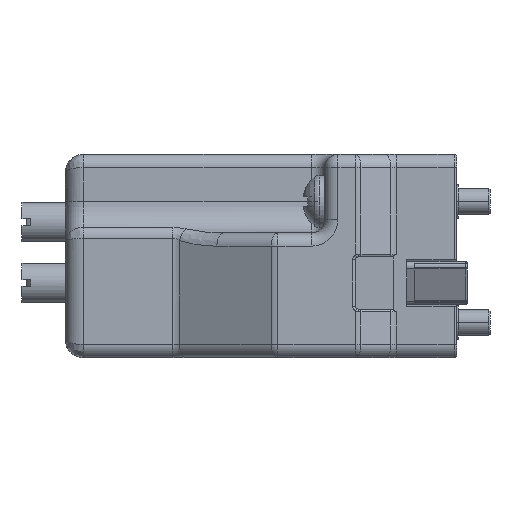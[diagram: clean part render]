
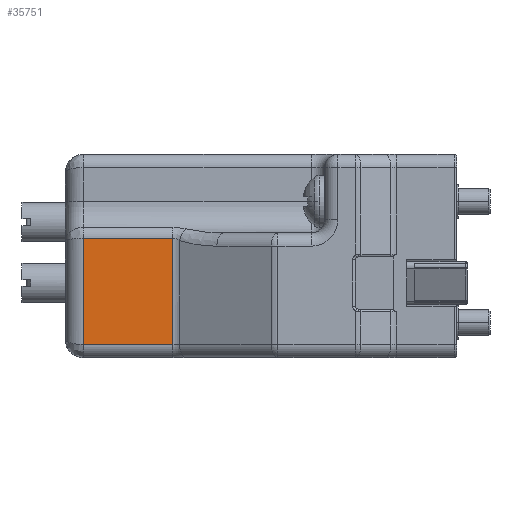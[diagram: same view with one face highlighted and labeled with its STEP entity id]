
A CAD part, front view. The second image highlights one B-rep face of the part: STEP entity #35751.
In plain terms, the highlighted planar face has unit normal (0, 1, 0).
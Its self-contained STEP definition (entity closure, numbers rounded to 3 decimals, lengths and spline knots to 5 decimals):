
#13349=DIRECTION('',(-1.,0.,0.));
#13350=VECTOR('',#13349,0.33785);
#13351=CARTESIAN_POINT('',(-1.2942,-3.3839,
0.36889));
#13352=LINE('',#13351,#13350);
#13358=DIRECTION('',(0.,0.,-1.));
#13359=VECTOR('',#13358,0.40089);
#13360=CARTESIAN_POINT('',(-1.63206,-3.3839,
0.36889));
#13361=LINE('',#13360,#13359);
#13392=DIRECTION('',(1.,0.,0.));
#13393=VECTOR('',#13392,0.33785);
#13394=CARTESIAN_POINT('',(-1.63206,-3.3839,
-0.03201));
#13395=LINE('',#13394,#13393);
#14196=DIRECTION('',(0.,0.,-1.));
#14197=VECTOR('',#14196,0.40089);
#14198=CARTESIAN_POINT('',(-1.2942,-3.3839,
0.36889));
#14199=LINE('',#14198,#14197);
#31405=CARTESIAN_POINT('',(-1.63206,-3.3839,
-0.03201));
#31406=VERTEX_POINT('',#31405);
#31407=CARTESIAN_POINT('',(-1.2942,-3.3839,
-0.03201));
#31408=VERTEX_POINT('',#31407);
#31409=CARTESIAN_POINT('',(-1.63206,-3.3839,
0.36889));
#31410=VERTEX_POINT('',#31409);
#31411=CARTESIAN_POINT('',(-1.2942,-3.3839,
0.36889));
#31412=VERTEX_POINT('',#31411);
#35737=CARTESIAN_POINT('',(-1.46313,-3.3839,
0.16844));
#35738=DIRECTION('',(0.,1.,0.));
#35739=DIRECTION('',(-1.,0.,0.));
#35740=AXIS2_PLACEMENT_3D('',#35737,#35738,#35739);
#35741=PLANE('',#35740);
#35743=ORIENTED_EDGE('',*,*,#35742,.T.);
#35745=ORIENTED_EDGE('',*,*,#35744,.T.);
#35747=ORIENTED_EDGE('',*,*,#35746,.F.);
#35748=ORIENTED_EDGE('',*,*,#35728,.T.);
#35749=EDGE_LOOP('',(#35743,#35745,#35747,#35748));
#35750=FACE_OUTER_BOUND('',#35749,.F.);
#35751=ADVANCED_FACE('',(#35750),#35741,.T.);
#35728=EDGE_CURVE('',#31412,#31410,#13352,.T.);
#35742=EDGE_CURVE('',#31410,#31406,#13361,.T.);
#35744=EDGE_CURVE('',#31406,#31408,#13395,.T.);
#35746=EDGE_CURVE('',#31412,#31408,#14199,.T.);
